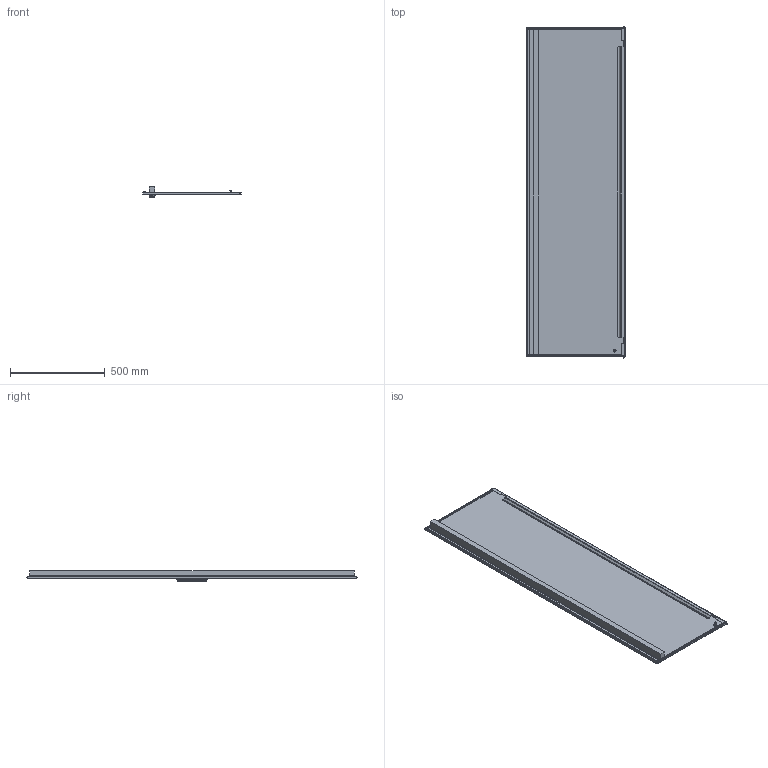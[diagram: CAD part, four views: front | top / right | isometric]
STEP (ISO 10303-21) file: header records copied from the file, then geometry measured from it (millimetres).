
FILE_DESCRIPTION (( 'STEP AP203' ), '1' );
FILE_NAME ('D 180.60 I Äâåðü òåëåêîììóíèêàöèîííàÿ.STEP', '2013-01-11T17:57:33', ( '' ), ( '' ), 'SwSTEP 2.0', 'SolidWorks 2012', '' );
FILE_SCHEMA (( 'CONFIG_CONTROL_DESIGN' ));
Length unit declared in the file: millimetre
Products named in the file (1): D 180.60 I Äâåðü òåëåêîììóíèêàöèîííàÿ
Bounding box: 518 x 1750.5 x 55 mm (x, y, z)
Volume: 3695958.7 mm3; surface area: 2226027.7 mm2
Topology: 3 solids, 3 shells, 175 faces, 406 edges, 226 vertices
Faces by surface type: cylinder 70, plane 65, sphere 24, cone 12, torus 4
Entity records: 4827 total; most frequent: DIRECTION 900, CARTESIAN_POINT 788, ORIENTED_EDGE 772, EDGE_CURVE 386, AXIS2_PLACEMENT_3D 338, VERTEX_POINT 226, VECTOR 224, LINE 224
